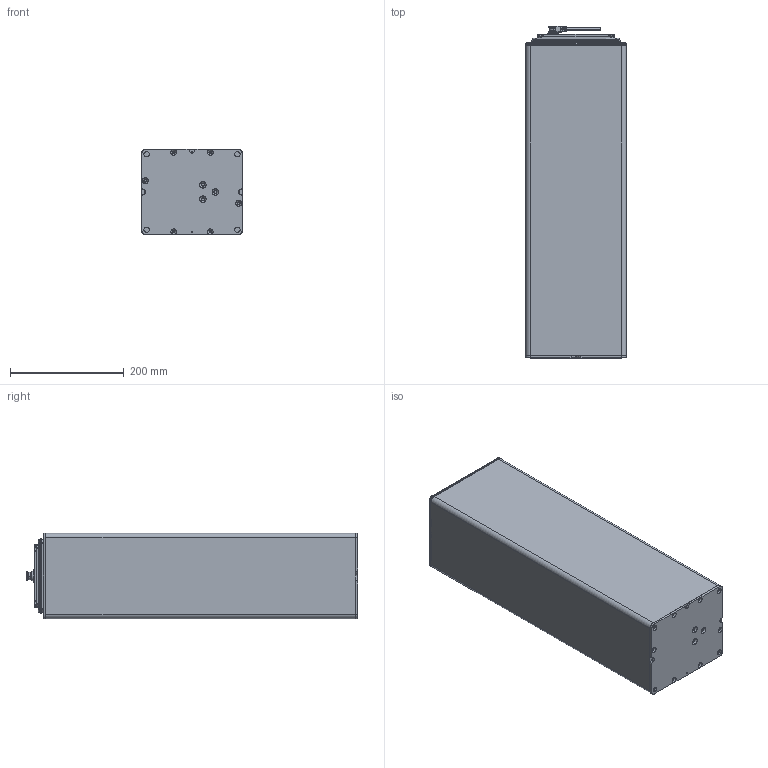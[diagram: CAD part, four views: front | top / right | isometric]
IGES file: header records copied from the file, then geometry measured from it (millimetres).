
Start section: SolidWorks IGES file using analytic representation for surfaces
Global section: file name: \\192.168.0.10\user\R&D\M1-R&D\Nathan\DLC3\網站2D3D\3D\0-dlc3-570-show_20230726.IGS,1; native system: 5HSolidWorks 2023; preprocessor: SolidWorks 2023; author: nathan; date: 230726.103938; units: millimetre
Bounding box: 178.2 x 584.9 x 151.5 mm (x, y, z)
Surface area: 2051755.4 mm2 (no closed solid volume)
Topology: 0 solids, 0 shells, 2461 faces, 21411 edges, 21373 vertices
Faces by surface type: bspline 1320, revolution 1141
